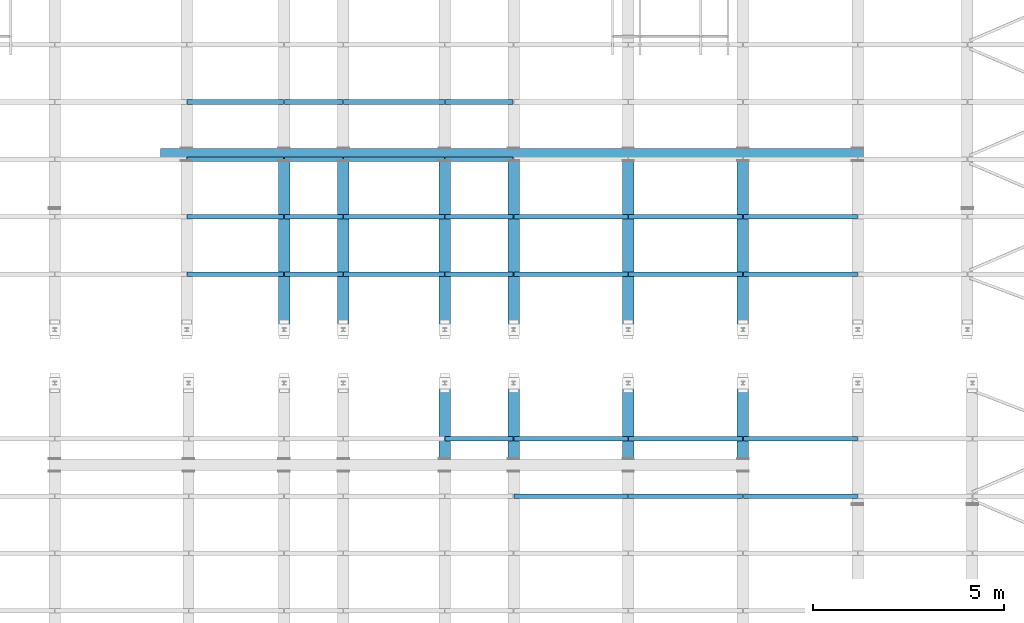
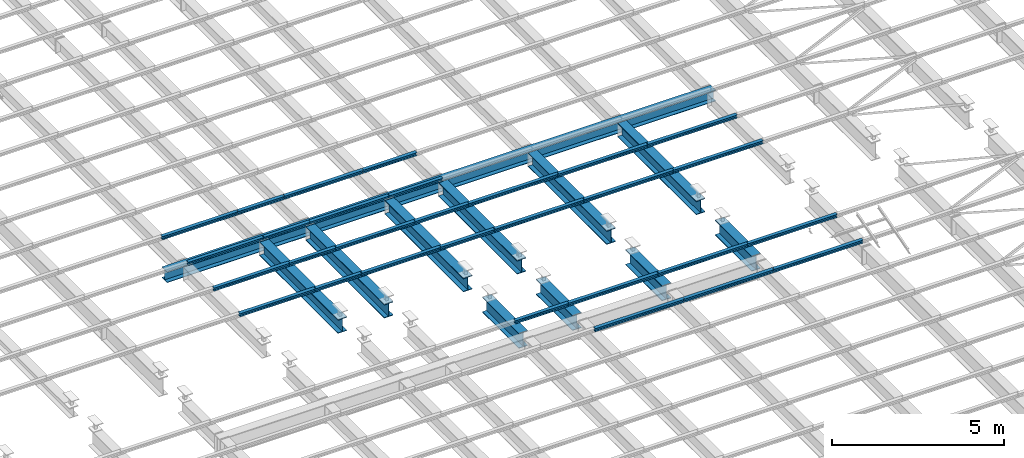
# One storey, part 42 of 139: 40 beams.
"""IFC2X3 building model written with IfcOpenShell, lengths in metres."""

from ifc_helpers import new_model, entity, si_unit, converted_unit, derived_unit, frame, origin, place, context, subcontext, project, spatial, polyline, outline, extrude, material, element, save


model = new_model("IFC2X3")

# Units and contexts
model_context = context("Model", 3, precision=1e-05, world=origin())
body_context = subcontext(model_context, "Body", "Model", "MODEL_VIEW")
ifc_project = project(units=[si_unit("LENGTHUNIT", "METRE"), si_unit("AREAUNIT", "SQUARE_METRE"), si_unit("VOLUMEUNIT", "CUBIC_METRE"), si_unit("MASSUNIT", "GRAM", prefix="KILO"), converted_unit("PLANEANGLEUNIT", "DEGREE", entity("IfcPlaneAngleMeasure", 0.0174532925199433), si_unit("PLANEANGLEUNIT", "RADIAN"), dimensions=[0, 0, 0, 0, 0, 0, 0]), derived_unit("THERMALTRANSMITTANCEUNIT", [(si_unit("POWERUNIT", "WATT"), 1), (si_unit("THERMODYNAMICTEMPERATUREUNIT", "KELVIN"), -1), (si_unit("LENGTHUNIT", "METRE"), -2)]), derived_unit("VOLUMETRICFLOWRATEUNIT", [(si_unit("LENGTHUNIT", "METRE"), 3), (converted_unit("TIMEUNIT", "hour", entity("IfcTimeMeasure", 3600.0), si_unit("TIMEUNIT", "SECOND"), dimensions=[0, 0, 1, 0, 0, 0, 0]), -1), (si_unit("LENGTHUNIT", "METRE"), -1)])], contexts=[model_context])

# Site, building, storey
site_placement = place(None, origin())
site = spatial("IfcSite", under=ifc_project, at=site_placement, Name="TWP_Speiseverteilzentrum SBW VZ II", CompositionType="ELEMENT")
building_placement = place(site_placement, origin())
building = spatial("IfcBuilding", under=site, at=building_placement, Name="Speiseverteilzentrum SBW VZ II", CompositionType="ELEMENT")
storey_placement = place(building_placement, frame((0.0, 0.0, 7.1307)))
storey = spatial("IfcBuildingStorey", under=building, at=storey_placement, Name="Wartung_FFB", CompositionType="ELEMENT", Elevation=7.1307)

# Beams
ifc_material_1 = material(Name="S235")
beam_1_placement = place(storey_placement, frame((24.8198606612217, 36.0798478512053, -0.385), z_axis=(0.0, 0.0, 1.0), x_axis=(-1.22464679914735e-16, -1.0, 0.0)))
element("IfcBeam", 1, at=beam_1_placement, inside=storey, material=ifc_material_1, Name="Stahlträger", context=body_context, shape_type="SweptSolid", body=[
    extrude(outline(polyline([(-0.15, 0.195), (-0.15, 0.176), (-0.00550000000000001, 0.176), (-0.00550000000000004, -0.176), (-0.15, -0.176), (-0.15, -0.195), (0.15, -0.195), (0.15, -0.176), (0.00549999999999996, -0.176), (0.00549999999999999, 0.176), (0.15, 0.176), (0.15, 0.195), (-0.15, 0.195)])), frame((0.0, 0.0, 0.0), z_axis=(0.0, 1.0, 0.0), x_axis=(-1.0, 0.0, 0.0)), (0.0, 0.0, 1.0), 18.3801393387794),
])
ifc_material_2 = material(Name="S235")
beam_2_placement = place(storey_placement, frame((28.0500000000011, 35.9048478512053, -0.435), z_axis=(0.0, 0.0, 1.0), x_axis=(-1.0, 0.0, 0.0)))
element("IfcBeam", 2, at=beam_2_placement, inside=storey, material=ifc_material_2, Name="Stahlträger", context=body_context, shape_type="SweptSolid", body=[
    extrude(outline(polyline([(-0.15, 0.245), (-0.15, 0.222), (-0.00599999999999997, 0.222), (-0.006, -0.222), (-0.15, -0.222), (-0.15, -0.245), (0.15, -0.245), (0.15, -0.222), (0.00600000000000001, -0.222), (0.00600000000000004, 0.222), (0.15, 0.222), (0.15, 0.245), (-0.15, 0.245)])), frame((0.0, 0.0, 0.0), z_axis=(0.0, 1.0, 0.0), x_axis=(-1.0, 0.0, 0.0)), (0.0, 0.0, 1.0), 4.55484785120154),
])
ifc_material_3 = material(Name="S235")
beam_3_placement = place(storey_placement, frame((34.0500000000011, 35.9048478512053, -0.435), z_axis=(0.0, 0.0, 1.0), x_axis=(-1.0, 0.0, 0.0)))
element("IfcBeam", 3, at=beam_3_placement, inside=storey, material=ifc_material_3, Name="Stahlträger", context=body_context, shape_type="SweptSolid", body=[
    extrude(outline(polyline([(-0.15, 0.245), (-0.15, 0.222), (-0.00599999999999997, 0.222), (-0.006, -0.222), (-0.15, -0.222), (-0.15, -0.245), (0.15, -0.245), (0.15, -0.222), (0.00600000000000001, -0.222), (0.00600000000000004, 0.222), (0.15, 0.222), (0.15, 0.245), (-0.15, 0.245)])), frame((0.0, 0.0, 0.0), z_axis=(0.0, 1.0, 0.0), x_axis=(-1.0, 0.0, 0.0)), (0.0, 0.0, 1.0), 4.55484785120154),
])
ifc_material_4 = material(Name="S235")
beam_4_placement = place(storey_placement, frame((37.0500000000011, 35.9048478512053, -0.435), z_axis=(0.0, 0.0, 1.0), x_axis=(-1.0, 0.0, 0.0)))
element("IfcBeam", 4, at=beam_4_placement, inside=storey, material=ifc_material_4, Name="Stahlträger", context=body_context, shape_type="SweptSolid", body=[
    extrude(outline(polyline([(-0.15, 0.245), (-0.15, 0.222), (-0.00599999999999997, 0.222), (-0.006, -0.222), (-0.15, -0.222), (-0.15, -0.245), (0.15, -0.245), (0.15, -0.222), (0.00600000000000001, -0.222), (0.00600000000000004, 0.222), (0.15, 0.222), (0.15, 0.245), (-0.15, 0.245)])), frame((0.0, 0.0, 0.0), z_axis=(0.0, 1.0, 0.0), x_axis=(-1.0, 0.0, 0.0)), (0.0, 0.0, 1.0), 4.55484785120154),
])
ifc_material_5 = material(Name="S235")
beam_5_placement = place(storey_placement, frame((40.0500000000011, 35.9048478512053, -0.435), z_axis=(0.0, 0.0, 1.0), x_axis=(-1.0, 0.0, 0.0)))
element("IfcBeam", 5, at=beam_5_placement, inside=storey, material=ifc_material_5, Name="Stahlträger", context=body_context, shape_type="SweptSolid", body=[
    extrude(outline(polyline([(-0.15, 0.245), (-0.15, 0.222), (-0.00599999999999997, 0.222), (-0.006, -0.222), (-0.15, -0.222), (-0.15, -0.245), (0.15, -0.245), (0.15, -0.222), (0.00600000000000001, -0.222), (0.00600000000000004, 0.222), (0.15, 0.222), (0.15, 0.245), (-0.15, 0.245)])), frame((0.0, 0.0, 0.0), z_axis=(0.0, 1.0, 0.0), x_axis=(-1.0, 0.0, 0.0)), (0.0, 0.0, 1.0), 4.55484785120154),
])
ifc_material_6 = material(Name="S235")
beam_6_placement = place(storey_placement, frame((32.2500000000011, 35.9048478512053, -0.435), z_axis=(0.0, 0.0, 1.0), x_axis=(-1.0, 0.0, 0.0)))
element("IfcBeam", 6, at=beam_6_placement, inside=storey, material=ifc_material_6, Name="Stahlträger", context=body_context, shape_type="SweptSolid", body=[
    extrude(outline(polyline([(-0.15, 0.245), (-0.15, 0.222), (-0.00599999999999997, 0.222), (-0.006, -0.222), (-0.15, -0.222), (-0.15, -0.245), (0.15, -0.245), (0.15, -0.222), (0.00600000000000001, -0.222), (0.00600000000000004, 0.222), (0.15, 0.222), (0.15, 0.245), (-0.15, 0.245)])), frame((0.0, 0.0, 0.0), z_axis=(0.0, 1.0, 0.0), x_axis=(-1.0, 0.0, 0.0)), (0.0, 0.0, 1.0), 4.55484785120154),
])
ifc_material_7 = material(Name="S235")
beam_7_placement = place(storey_placement, frame((29.6000000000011, 35.9048478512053, -0.435), z_axis=(0.0, 0.0, 1.0), x_axis=(-1.0, 0.0, 0.0)))
element("IfcBeam", 7, at=beam_7_placement, inside=storey, material=ifc_material_7, Name="Stahlträger", context=body_context, shape_type="SweptSolid", body=[
    extrude(outline(polyline([(-0.15, 0.245), (-0.15, 0.222), (-0.00599999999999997, 0.222), (-0.006, -0.222), (-0.15, -0.222), (-0.15, -0.245), (0.15, -0.245), (0.15, -0.222), (0.00600000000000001, -0.222), (0.00600000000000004, 0.222), (0.15, 0.222), (0.15, 0.245), (-0.15, 0.245)])), frame((0.0, 0.0, 0.0), z_axis=(0.0, 1.0, 0.0), x_axis=(-1.0, 0.0, 0.0)), (0.0, 0.0, 1.0), 4.55484785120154),
])
ifc_material_8 = material(Name="S235")
beam_8_placement = place(storey_placement, frame((34.0500000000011, 30.2500000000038, -0.46), z_axis=(0.0, 0.0, 1.0), x_axis=(-1.0, 0.0, 0.0)))
element("IfcBeam", 8, at=beam_8_placement, inside=storey, material=ifc_material_8, Name="Stahlträger", context=body_context, shape_type="SweptSolid", body=[
    extrude(outline(polyline([(-0.15, 0.27), (-0.15, 0.246), (-0.0062499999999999, 0.246), (-0.00624999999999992, -0.246), (-0.15, -0.246), (-0.15, -0.27), (0.15, -0.27), (0.15, -0.246), (0.00625000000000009, -0.246), (0.00625000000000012, 0.246), (0.15, 0.246), (0.15, 0.27), (-0.15, 0.27)])), frame((0.0, 0.0, 0.0), z_axis=(0.0, 1.0, 0.0), x_axis=(-1.0, 0.0, 0.0)), (0.0, 0.0, 1.0), 2.11507130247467),
])
ifc_material_9 = material(Name="S235")
beam_9_placement = place(storey_placement, frame((32.2500000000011, 30.2500000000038, -0.46), z_axis=(0.0, 0.0, 1.0), x_axis=(-1.0, 0.0, 0.0)))
element("IfcBeam", 9, at=beam_9_placement, inside=storey, material=ifc_material_9, Name="Stahlträger", context=body_context, shape_type="SweptSolid", body=[
    extrude(outline(polyline([(-0.15, 0.27), (-0.15, 0.246), (-0.0062499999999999, 0.246), (-0.00624999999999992, -0.246), (-0.15, -0.246), (-0.15, -0.27), (0.15, -0.27), (0.15, -0.246), (0.00625000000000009, -0.246), (0.00625000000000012, 0.246), (0.15, 0.246), (0.15, 0.27), (-0.15, 0.27)])), frame((0.0, 0.0, 0.0), z_axis=(0.0, 1.0, 0.0), x_axis=(-1.0, 0.0, 0.0)), (0.0, 0.0, 1.0), 2.11507130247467),
])
ifc_material_10 = material(Name="S235")
beam_10_placement = place(storey_placement, frame((37.0500000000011, 30.2500000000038, -0.46), z_axis=(0.0, 0.0, 1.0), x_axis=(-1.0, 0.0, 0.0)))
element("IfcBeam", 10, at=beam_10_placement, inside=storey, material=ifc_material_10, Name="Stahlträger", context=body_context, shape_type="SweptSolid", body=[
    extrude(outline(polyline([(-0.15, 0.27), (-0.15, 0.246), (-0.0062499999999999, 0.246), (-0.00624999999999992, -0.246), (-0.15, -0.246), (-0.15, -0.27), (0.15, -0.27), (0.15, -0.246), (0.00625000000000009, -0.246), (0.00625000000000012, 0.246), (0.15, 0.246), (0.15, 0.27), (-0.15, 0.27)])), frame((0.0, 0.0, 0.0), z_axis=(0.0, 1.0, 0.0), x_axis=(-1.0, 0.0, 0.0)), (0.0, 0.0, 1.0), 2.11507130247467),
])
ifc_material_11 = material(Name="S235")
beam_11_placement = place(storey_placement, frame((40.0500000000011, 30.2500000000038, -0.46), z_axis=(0.0, 0.0, 1.0), x_axis=(-1.0, 0.0, 0.0)))
element("IfcBeam", 11, at=beam_11_placement, inside=storey, material=ifc_material_11, Name="Stahlträger", context=body_context, shape_type="SweptSolid", body=[
    extrude(outline(polyline([(-0.15, 0.27), (-0.15, 0.246), (-0.0062499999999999, 0.246), (-0.00624999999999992, -0.246), (-0.15, -0.246), (-0.15, -0.27), (0.15, -0.27), (0.15, -0.246), (0.00625000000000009, -0.246), (0.00625000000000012, 0.246), (0.15, 0.246), (0.15, 0.27), (-0.15, 0.27)])), frame((0.0, 0.0, 0.0), z_axis=(0.0, 1.0, 0.0), x_axis=(-1.0, 0.0, 0.0)), (0.0, 0.0, 1.0), 2.11507130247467),
])
ifc_material_12 = material(Name="S235")
beam_12_placement = place(storey_placement, frame((34.0600000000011, 34.4500000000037, -0.133), z_axis=(0.0, 0.0, 1.0), x_axis=(0.0, -1.0, 0.0)))
element("IfcBeam", 12, at=beam_12_placement, inside=storey, material=ifc_material_12, Name="Nebenträger", context=body_context, shape_type="SweptSolid", body=[
    extrude(outline(polyline([(-0.06, 0.0570000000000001), (-0.06, 0.0490000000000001), (-0.00249999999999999, 0.0490000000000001), (-0.0025, -0.0489999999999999), (-0.06, -0.0489999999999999), (-0.06, -0.0569999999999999), (0.06, -0.0569999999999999), (0.06, -0.0489999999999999), (0.0025, -0.0489999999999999), (0.00250000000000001, 0.0490000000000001), (0.06, 0.0490000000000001), (0.06, 0.0570000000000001), (-0.06, 0.0570000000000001)])), frame((0.0, 0.0, 0.0), z_axis=(0.0, 1.0, 0.0), x_axis=(-1.0, 0.0, 0.0)), (0.0, 0.0, 1.0), 2.98),
])
ifc_material_13 = material(Name="S235")
beam_13_placement = place(storey_placement, frame((37.0600000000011, 34.4500000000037, -0.133), z_axis=(0.0, 0.0, 1.0), x_axis=(0.0, -1.0, 0.0)))
element("IfcBeam", 13, at=beam_13_placement, inside=storey, material=ifc_material_13, Name="Nebenträger", context=body_context, shape_type="SweptSolid", body=[
    extrude(outline(polyline([(-0.06, 0.0570000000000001), (-0.06, 0.0490000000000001), (-0.00249999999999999, 0.0490000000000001), (-0.0025, -0.0489999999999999), (-0.06, -0.0489999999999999), (-0.06, -0.0569999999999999), (0.06, -0.0569999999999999), (0.06, -0.0489999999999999), (0.0025, -0.0489999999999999), (0.00250000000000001, 0.0490000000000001), (0.06, 0.0490000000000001), (0.06, 0.0570000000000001), (-0.06, 0.0570000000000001)])), frame((0.0, 0.0, 0.0), z_axis=(0.0, 1.0, 0.0), x_axis=(-1.0, 0.0, 0.0)), (0.0, 0.0, 1.0), 2.98),
])
ifc_material_14 = material(Name="S235")
beam_14_placement = place(storey_placement, frame((40.0600000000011, 34.4500000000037, -0.133), z_axis=(0.0, 0.0, 1.0), x_axis=(0.0, -1.0, 0.0)))
element("IfcBeam", 14, at=beam_14_placement, inside=storey, material=ifc_material_14, Name="Nebenträger", context=body_context, shape_type="SweptSolid", body=[
    extrude(outline(polyline([(-0.06, 0.0570000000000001), (-0.06, 0.0490000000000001), (-0.00249999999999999, 0.0490000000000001), (-0.0025, -0.0489999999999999), (-0.06, -0.0489999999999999), (-0.06, -0.0569999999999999), (0.06, -0.0569999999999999), (0.06, -0.0489999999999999), (0.0025, -0.0489999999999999), (0.00250000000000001, 0.0490000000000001), (0.06, 0.0490000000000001), (0.06, 0.0570000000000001), (-0.06, 0.0570000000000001)])), frame((0.0, 0.0, 0.0), z_axis=(0.0, 1.0, 0.0), x_axis=(-1.0, 0.0, 0.0)), (0.0, 0.0, 1.0), 2.98),
])
ifc_material_15 = material(Name="S235")
beam_15_placement = place(storey_placement, frame((34.0600000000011, 32.9500000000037, -0.133), z_axis=(0.0, 0.0, 1.0), x_axis=(0.0, -1.0, 0.0)))
element("IfcBeam", 15, at=beam_15_placement, inside=storey, material=ifc_material_15, Name="Nebenträger", context=body_context, shape_type="SweptSolid", body=[
    extrude(outline(polyline([(-0.06, 0.0570000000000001), (-0.06, 0.0490000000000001), (-0.00249999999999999, 0.0490000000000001), (-0.0025, -0.0489999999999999), (-0.06, -0.0489999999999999), (-0.06, -0.0569999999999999), (0.06, -0.0569999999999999), (0.06, -0.0489999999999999), (0.0025, -0.0489999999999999), (0.00250000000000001, 0.0490000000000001), (0.06, 0.0490000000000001), (0.06, 0.0570000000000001), (-0.06, 0.0570000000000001)])), frame((0.0, 0.0, 0.0), z_axis=(0.0, 1.0, 0.0), x_axis=(-1.0, 0.0, 0.0)), (0.0, 0.0, 1.0), 2.98),
])
ifc_material_16 = material(Name="S235")
beam_16_placement = place(storey_placement, frame((37.0600000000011, 32.9500000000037, -0.133), z_axis=(0.0, 0.0, 1.0), x_axis=(0.0, -1.0, 0.0)))
element("IfcBeam", 16, at=beam_16_placement, inside=storey, material=ifc_material_16, Name="Nebenträger", context=body_context, shape_type="SweptSolid", body=[
    extrude(outline(polyline([(-0.06, 0.0570000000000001), (-0.06, 0.0490000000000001), (-0.00249999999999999, 0.0490000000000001), (-0.0025, -0.0489999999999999), (-0.06, -0.0489999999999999), (-0.06, -0.0569999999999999), (0.06, -0.0569999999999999), (0.06, -0.0489999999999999), (0.0025, -0.0489999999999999), (0.00250000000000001, 0.0490000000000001), (0.06, 0.0490000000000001), (0.06, 0.0570000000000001), (-0.06, 0.0570000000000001)])), frame((0.0, 0.0, 0.0), z_axis=(0.0, 1.0, 0.0), x_axis=(-1.0, 0.0, 0.0)), (0.0, 0.0, 1.0), 2.98),
])
ifc_material_17 = material(Name="S235")
beam_17_placement = place(storey_placement, frame((40.0600000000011, 32.9500000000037, -0.133), z_axis=(0.0, 0.0, 1.0), x_axis=(0.0, -1.0, 0.0)))
element("IfcBeam", 17, at=beam_17_placement, inside=storey, material=ifc_material_17, Name="Nebenträger", context=body_context, shape_type="SweptSolid", body=[
    extrude(outline(polyline([(-0.06, 0.0570000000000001), (-0.06, 0.0490000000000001), (-0.00249999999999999, 0.0490000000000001), (-0.0025, -0.0489999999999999), (-0.06, -0.0489999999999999), (-0.06, -0.0569999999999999), (0.06, -0.0569999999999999), (0.06, -0.0489999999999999), (0.0025, -0.0489999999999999), (0.00250000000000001, 0.0490000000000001), (0.06, 0.0490000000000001), (0.06, 0.0570000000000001), (-0.06, 0.0570000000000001)])), frame((0.0, 0.0, 0.0), z_axis=(0.0, 1.0, 0.0), x_axis=(-1.0, 0.0, 0.0)), (0.0, 0.0, 1.0), 2.98),
])
ifc_material_18 = material(Name="S235")
beam_18_placement = place(storey_placement, frame((34.0600000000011, 28.6450742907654, -0.133), z_axis=(0.0, 0.0, 1.0), x_axis=(0.0, -1.0, 0.0)))
element("IfcBeam", 18, at=beam_18_placement, inside=storey, material=ifc_material_18, Name="Nebenträger", context=body_context, shape_type="SweptSolid", body=[
    extrude(outline(polyline([(-0.06, 0.0570000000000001), (-0.06, 0.0490000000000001), (-0.00249999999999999, 0.0490000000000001), (-0.0025, -0.0489999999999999), (-0.06, -0.0489999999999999), (-0.06, -0.0569999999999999), (0.06, -0.0569999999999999), (0.06, -0.0489999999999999), (0.0025, -0.0489999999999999), (0.00250000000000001, 0.0490000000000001), (0.06, 0.0490000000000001), (0.06, 0.0570000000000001), (-0.06, 0.0570000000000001)])), frame((0.0, 0.0, 0.0), z_axis=(0.0, 1.0, 0.0), x_axis=(-1.0, 0.0, 0.0)), (0.0, 0.0, 1.0), 2.98),
])
ifc_material_19 = material(Name="S235")
beam_19_placement = place(storey_placement, frame((37.0600000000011, 28.6450742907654, -0.133), z_axis=(0.0, 0.0, 1.0), x_axis=(0.0, -1.0, 0.0)))
element("IfcBeam", 19, at=beam_19_placement, inside=storey, material=ifc_material_19, Name="Nebenträger", context=body_context, shape_type="SweptSolid", body=[
    extrude(outline(polyline([(-0.06, 0.0570000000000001), (-0.06, 0.0490000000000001), (-0.00249999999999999, 0.0490000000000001), (-0.0025, -0.0489999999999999), (-0.06, -0.0489999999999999), (-0.06, -0.0569999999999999), (0.06, -0.0569999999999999), (0.06, -0.0489999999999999), (0.0025, -0.0489999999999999), (0.00250000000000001, 0.0490000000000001), (0.06, 0.0490000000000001), (0.06, 0.0570000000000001), (-0.06, 0.0570000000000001)])), frame((0.0, 0.0, 0.0), z_axis=(0.0, 1.0, 0.0), x_axis=(-1.0, 0.0, 0.0)), (0.0, 0.0, 1.0), 2.98),
])
ifc_material_20 = material(Name="S235")
beam_20_placement = place(storey_placement, frame((40.0600000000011, 28.6450742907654, -0.133), z_axis=(0.0, 0.0, 1.0), x_axis=(0.0, -1.0, 0.0)))
element("IfcBeam", 20, at=beam_20_placement, inside=storey, material=ifc_material_20, Name="Nebenträger", context=body_context, shape_type="SweptSolid", body=[
    extrude(outline(polyline([(-0.06, 0.0570000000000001), (-0.06, 0.0490000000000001), (-0.00249999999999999, 0.0490000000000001), (-0.0025, -0.0489999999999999), (-0.06, -0.0489999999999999), (-0.06, -0.0569999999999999), (0.06, -0.0569999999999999), (0.06, -0.0489999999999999), (0.0025, -0.0489999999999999), (0.00250000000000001, 0.0490000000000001), (0.06, 0.0490000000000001), (0.06, 0.0570000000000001), (-0.06, 0.0570000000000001)])), frame((0.0, 0.0, 0.0), z_axis=(0.0, 1.0, 0.0), x_axis=(-1.0, 0.0, 0.0)), (0.0, 0.0, 1.0), 2.98),
])
ifc_material_21 = material(Name="S235")
beam_21_placement = place(storey_placement, frame((34.0600000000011, 27.1450742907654, -0.133), z_axis=(0.0, 0.0, 1.0), x_axis=(0.0, -1.0, 0.0)))
element("IfcBeam", 21, at=beam_21_placement, inside=storey, material=ifc_material_21, Name="Nebenträger", context=body_context, shape_type="SweptSolid", body=[
    extrude(outline(polyline([(-0.06, 0.0570000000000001), (-0.06, 0.0490000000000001), (-0.00249999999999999, 0.0490000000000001), (-0.0025, -0.0489999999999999), (-0.06, -0.0489999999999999), (-0.06, -0.0569999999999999), (0.06, -0.0569999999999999), (0.06, -0.0489999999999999), (0.0025, -0.0489999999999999), (0.00250000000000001, 0.0490000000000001), (0.06, 0.0490000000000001), (0.06, 0.0570000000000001), (-0.06, 0.0570000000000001)])), frame((0.0, 0.0, 0.0), z_axis=(0.0, 1.0, 0.0), x_axis=(-1.0, 0.0, 0.0)), (0.0, 0.0, 1.0), 2.98),
])
ifc_material_22 = material(Name="S235")
beam_22_placement = place(storey_placement, frame((37.0600000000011, 27.1450742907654, -0.133), z_axis=(0.0, 0.0, 1.0), x_axis=(0.0, -1.0, 0.0)))
element("IfcBeam", 22, at=beam_22_placement, inside=storey, material=ifc_material_22, Name="Nebenträger", context=body_context, shape_type="SweptSolid", body=[
    extrude(outline(polyline([(-0.06, 0.0570000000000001), (-0.06, 0.0490000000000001), (-0.00249999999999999, 0.0490000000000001), (-0.0025, -0.0489999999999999), (-0.06, -0.0489999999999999), (-0.06, -0.0569999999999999), (0.06, -0.0569999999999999), (0.06, -0.0489999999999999), (0.0025, -0.0489999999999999), (0.00250000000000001, 0.0490000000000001), (0.06, 0.0490000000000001), (0.06, 0.0570000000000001), (-0.06, 0.0570000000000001)])), frame((0.0, 0.0, 0.0), z_axis=(0.0, 1.0, 0.0), x_axis=(-1.0, 0.0, 0.0)), (0.0, 0.0, 1.0), 2.98),
])
ifc_material_23 = material(Name="S235")
beam_23_placement = place(storey_placement, frame((40.0600000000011, 27.1450742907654, -0.133), z_axis=(0.0, 0.0, 1.0), x_axis=(0.0, -1.0, 0.0)))
element("IfcBeam", 23, at=beam_23_placement, inside=storey, material=ifc_material_23, Name="Nebenträger", context=body_context, shape_type="SweptSolid", body=[
    extrude(outline(polyline([(-0.06, 0.0570000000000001), (-0.06, 0.0490000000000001), (-0.00249999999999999, 0.0490000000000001), (-0.0025, -0.0489999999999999), (-0.06, -0.0489999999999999), (-0.06, -0.0569999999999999), (0.06, -0.0569999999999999), (0.06, -0.0489999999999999), (0.0025, -0.0489999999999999), (0.00250000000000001, 0.0490000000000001), (0.06, 0.0490000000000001), (0.06, 0.0570000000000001), (-0.06, 0.0570000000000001)])), frame((0.0, 0.0, 0.0), z_axis=(0.0, 1.0, 0.0), x_axis=(-1.0, 0.0, 0.0)), (0.0, 0.0, 1.0), 2.98),
])
ifc_material_24 = material(Name="S235")
beam_24_placement = place(storey_placement, frame((32.2600000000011, 28.6450742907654, -0.133), z_axis=(0.0, 0.0, 1.0), x_axis=(0.0, -1.0, 0.0)))
element("IfcBeam", 24, at=beam_24_placement, inside=storey, material=ifc_material_24, Name="Nebenträger", context=body_context, shape_type="SweptSolid", body=[
    extrude(outline(polyline([(-0.06, 0.0570000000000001), (-0.06, 0.0490000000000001), (-0.00249999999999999, 0.0490000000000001), (-0.0025, -0.0489999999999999), (-0.06, -0.0489999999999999), (-0.06, -0.0569999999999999), (0.06, -0.0569999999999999), (0.06, -0.0489999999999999), (0.0025, -0.0489999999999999), (0.00250000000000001, 0.0490000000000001), (0.06, 0.0490000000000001), (0.06, 0.0570000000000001), (-0.06, 0.0570000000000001)])), frame((0.0, 0.0, 0.0), z_axis=(0.0, 1.0, 0.0), x_axis=(-1.0, 0.0, 0.0)), (0.0, 0.0, 1.0), 1.78000000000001),
])
ifc_material_25 = material(Name="S235")
beam_25_placement = place(storey_placement, frame((32.2600000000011, 37.4500000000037, -0.133), z_axis=(0.0, 0.0, 1.0), x_axis=(0.0, -1.0, 0.0)))
element("IfcBeam", 25, at=beam_25_placement, inside=storey, material=ifc_material_25, Name="Nebenträger", context=body_context, shape_type="SweptSolid", body=[
    extrude(outline(polyline([(-0.06, 0.0570000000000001), (-0.06, 0.0490000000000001), (-0.00249999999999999, 0.0490000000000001), (-0.0025, -0.0489999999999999), (-0.06, -0.0489999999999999), (-0.06, -0.0569999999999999), (0.06, -0.0569999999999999), (0.06, -0.0489999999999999), (0.0025, -0.0489999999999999), (0.00250000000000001, 0.0490000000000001), (0.06, 0.0490000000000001), (0.06, 0.0570000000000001), (-0.06, 0.0570000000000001)])), frame((0.0, 0.0, 0.0), z_axis=(0.0, 1.0, 0.0), x_axis=(-1.0, 0.0, 0.0)), (0.0, 0.0, 1.0), 1.78),
])
ifc_material_26 = material(Name="S235")
beam_26_placement = place(storey_placement, frame((28.0600000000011, 37.4500000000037, -0.133), z_axis=(0.0, 0.0, 1.0), x_axis=(0.0, -1.0, 0.0)))
element("IfcBeam", 26, at=beam_26_placement, inside=storey, material=ifc_material_26, Name="Nebenträger", context=body_context, shape_type="SweptSolid", body=[
    extrude(outline(polyline([(-0.06, 0.0570000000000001), (-0.06, 0.0490000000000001), (-0.00249999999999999, 0.0490000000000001), (-0.0025, -0.0489999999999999), (-0.06, -0.0489999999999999), (-0.06, -0.0569999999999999), (0.06, -0.0569999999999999), (0.06, -0.0489999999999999), (0.0025, -0.0489999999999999), (0.00250000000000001, 0.0490000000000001), (0.06, 0.0490000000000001), (0.06, 0.0570000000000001), (-0.06, 0.0570000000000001)])), frame((0.0, 0.0, 0.0), z_axis=(0.0, 1.0, 0.0), x_axis=(-1.0, 0.0, 0.0)), (0.0, 0.0, 1.0), 1.52999999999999),
])
ifc_material_27 = material(Name="S235")
beam_27_placement = place(storey_placement, frame((29.6100000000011, 37.4500000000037, -0.133), z_axis=(0.0, 0.0, 1.0), x_axis=(0.0, -1.0, 0.0)))
element("IfcBeam", 27, at=beam_27_placement, inside=storey, material=ifc_material_27, Name="Nebenträger", context=body_context, shape_type="SweptSolid", body=[
    extrude(outline(polyline([(-0.06, 0.0570000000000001), (-0.06, 0.0490000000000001), (-0.00249999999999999, 0.0490000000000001), (-0.0025, -0.0489999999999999), (-0.06, -0.0489999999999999), (-0.06, -0.0569999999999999), (0.06, -0.0569999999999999), (0.06, -0.0489999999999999), (0.0025, -0.0489999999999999), (0.00250000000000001, 0.0490000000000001), (0.06, 0.0490000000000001), (0.06, 0.0570000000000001), (-0.06, 0.0570000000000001)])), frame((0.0, 0.0, 0.0), z_axis=(0.0, 1.0, 0.0), x_axis=(-1.0, 0.0, 0.0)), (0.0, 0.0, 1.0), 2.63000000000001),
])
ifc_material_28 = material(Name="S235")
beam_28_placement = place(storey_placement, frame((25.5125522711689, 37.4500000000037, -0.133), z_axis=(0.0, 0.0, 1.0), x_axis=(0.0, -1.0, 0.0)))
element("IfcBeam", 28, at=beam_28_placement, inside=storey, material=ifc_material_28, Name="Nebenträger", context=body_context, shape_type="SweptSolid", body=[
    extrude(outline(polyline([(-0.06, 0.0570000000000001), (-0.06, 0.0490000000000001), (-0.00249999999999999, 0.0490000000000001), (-0.0025, -0.0489999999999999), (-0.06, -0.0489999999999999), (-0.06, -0.0569999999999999), (0.06, -0.0569999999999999), (0.06, -0.0489999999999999), (0.0025, -0.0489999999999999), (0.00250000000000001, 0.0490000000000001), (0.06, 0.0490000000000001), (0.06, 0.0570000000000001), (-0.06, 0.0570000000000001)])), frame((0.0, 0.0, 0.0), z_axis=(0.0, 1.0, 0.0), x_axis=(-1.0, 0.0, 0.0)), (0.0, 0.0, 1.0), 2.52744772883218),
])
ifc_material_29 = material(Name="S235")
beam_29_placement = place(storey_placement, frame((25.5125522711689, 35.9500000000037, -0.133), z_axis=(0.0, 0.0, 1.0), x_axis=(0.0, -1.0, 0.0)))
element("IfcBeam", 29, at=beam_29_placement, inside=storey, material=ifc_material_29, Name="Nebenträger", context=body_context, shape_type="SweptSolid", body=[
    extrude(outline(polyline([(-0.06, 0.0570000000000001), (-0.06, 0.0490000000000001), (-0.00249999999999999, 0.0490000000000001), (-0.0025, -0.0489999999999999), (-0.06, -0.0489999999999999), (-0.06, -0.0569999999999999), (0.06, -0.0569999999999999), (0.06, -0.0489999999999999), (0.0025, -0.0489999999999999), (0.00250000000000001, 0.0490000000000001), (0.06, 0.0490000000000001), (0.06, 0.0570000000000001), (-0.06, 0.0570000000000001)])), frame((0.0, 0.0, 0.0), z_axis=(0.0, 1.0, 0.0), x_axis=(-1.0, 0.0, 0.0)), (0.0, 0.0, 1.0), 2.52744772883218),
])
ifc_material_30 = material(Name="S235")
beam_30_placement = place(storey_placement, frame((25.5125522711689, 34.4500000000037, -0.133), z_axis=(0.0, 0.0, 1.0), x_axis=(0.0, -1.0, 0.0)))
element("IfcBeam", 30, at=beam_30_placement, inside=storey, material=ifc_material_30, Name="Nebenträger", context=body_context, shape_type="SweptSolid", body=[
    extrude(outline(polyline([(-0.06, 0.0570000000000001), (-0.06, 0.0490000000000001), (-0.00249999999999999, 0.0490000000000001), (-0.0025, -0.0489999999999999), (-0.06, -0.0489999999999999), (-0.06, -0.0569999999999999), (0.06, -0.0569999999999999), (0.06, -0.0489999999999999), (0.0025, -0.0489999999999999), (0.00250000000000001, 0.0490000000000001), (0.06, 0.0490000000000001), (0.06, 0.0570000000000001), (-0.06, 0.0570000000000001)])), frame((0.0, 0.0, 0.0), z_axis=(0.0, 1.0, 0.0), x_axis=(-1.0, 0.0, 0.0)), (0.0, 0.0, 1.0), 2.52744772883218),
])
ifc_material_31 = material(Name="S235")
beam_31_placement = place(storey_placement, frame((25.5125522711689, 32.9500000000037, -0.133), z_axis=(0.0, 0.0, 1.0), x_axis=(0.0, -1.0, 0.0)))
element("IfcBeam", 31, at=beam_31_placement, inside=storey, material=ifc_material_31, Name="Nebenträger", context=body_context, shape_type="SweptSolid", body=[
    extrude(outline(polyline([(-0.06, 0.0570000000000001), (-0.06, 0.0490000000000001), (-0.00249999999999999, 0.0490000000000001), (-0.0025, -0.0489999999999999), (-0.06, -0.0489999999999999), (-0.06, -0.0569999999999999), (0.06, -0.0569999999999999), (0.06, -0.0489999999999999), (0.0025, -0.0489999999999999), (0.00250000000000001, 0.0490000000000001), (0.06, 0.0490000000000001), (0.06, 0.0570000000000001), (-0.06, 0.0570000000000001)])), frame((0.0, 0.0, 0.0), z_axis=(0.0, 1.0, 0.0), x_axis=(-1.0, 0.0, 0.0)), (0.0, 0.0, 1.0), 2.52744772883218),
])
ifc_material_32 = material(Name="S235")
beam_32_placement = place(storey_placement, frame((32.2600000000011, 35.9500000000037, -0.133), z_axis=(0.0, 0.0, 1.0), x_axis=(0.0, -1.0, 0.0)))
element("IfcBeam", 32, at=beam_32_placement, inside=storey, material=ifc_material_32, Name="Nebenträger", context=body_context, shape_type="SweptSolid", body=[
    extrude(outline(polyline([(-0.06, 0.0570000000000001), (-0.06, 0.0490000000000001), (-0.00249999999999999, 0.0490000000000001), (-0.0025, -0.0489999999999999), (-0.06, -0.0489999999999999), (-0.06, -0.0569999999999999), (0.06, -0.0569999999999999), (0.06, -0.0489999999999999), (0.0025, -0.0489999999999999), (0.00250000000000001, 0.0490000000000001), (0.06, 0.0490000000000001), (0.06, 0.0570000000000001), (-0.06, 0.0570000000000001)])), frame((0.0, 0.0, 0.0), z_axis=(0.0, 1.0, 0.0), x_axis=(-1.0, 0.0, 0.0)), (0.0, 0.0, 1.0), 1.78000000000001),
])
ifc_material_33 = material(Name="S235")
beam_33_placement = place(storey_placement, frame((32.2600000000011, 34.4500000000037, -0.133), z_axis=(0.0, 0.0, 1.0), x_axis=(0.0, -1.0, 0.0)))
element("IfcBeam", 33, at=beam_33_placement, inside=storey, material=ifc_material_33, Name="Nebenträger", context=body_context, shape_type="SweptSolid", body=[
    extrude(outline(polyline([(-0.06, 0.0570000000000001), (-0.06, 0.0490000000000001), (-0.00249999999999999, 0.0490000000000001), (-0.0025, -0.0489999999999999), (-0.06, -0.0489999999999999), (-0.06, -0.0569999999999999), (0.06, -0.0569999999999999), (0.06, -0.0489999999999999), (0.0025, -0.0489999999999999), (0.00250000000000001, 0.0490000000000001), (0.06, 0.0490000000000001), (0.06, 0.0570000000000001), (-0.06, 0.0570000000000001)])), frame((0.0, 0.0, 0.0), z_axis=(0.0, 1.0, 0.0), x_axis=(-1.0, 0.0, 0.0)), (0.0, 0.0, 1.0), 1.78000000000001),
])
ifc_material_34 = material(Name="S235")
beam_34_placement = place(storey_placement, frame((32.2600000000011, 32.9500000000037, -0.133), z_axis=(0.0, 0.0, 1.0), x_axis=(0.0, -1.0, 0.0)))
element("IfcBeam", 34, at=beam_34_placement, inside=storey, material=ifc_material_34, Name="Nebenträger", context=body_context, shape_type="SweptSolid", body=[
    extrude(outline(polyline([(-0.06, 0.0570000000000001), (-0.06, 0.0490000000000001), (-0.00249999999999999, 0.0490000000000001), (-0.0025, -0.0489999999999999), (-0.06, -0.0489999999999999), (-0.06, -0.0569999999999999), (0.06, -0.0569999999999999), (0.06, -0.0489999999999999), (0.0025, -0.0489999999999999), (0.00250000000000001, 0.0490000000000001), (0.06, 0.0490000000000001), (0.06, 0.0570000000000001), (-0.06, 0.0570000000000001)])), frame((0.0, 0.0, 0.0), z_axis=(0.0, 1.0, 0.0), x_axis=(-1.0, 0.0, 0.0)), (0.0, 0.0, 1.0), 1.78000000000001),
])
ifc_material_35 = material(Name="S235")
beam_35_placement = place(storey_placement, frame((29.6100000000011, 35.9500000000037, -0.133), z_axis=(0.0, 0.0, 1.0), x_axis=(0.0, -1.0, 0.0)))
element("IfcBeam", 35, at=beam_35_placement, inside=storey, material=ifc_material_35, Name="Nebenträger", context=body_context, shape_type="SweptSolid", body=[
    extrude(outline(polyline([(-0.06, 0.0570000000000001), (-0.06, 0.0490000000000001), (-0.00249999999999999, 0.0490000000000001), (-0.0025, -0.0489999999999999), (-0.06, -0.0489999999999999), (-0.06, -0.0569999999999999), (0.06, -0.0569999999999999), (0.06, -0.0489999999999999), (0.0025, -0.0489999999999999), (0.00250000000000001, 0.0490000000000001), (0.06, 0.0490000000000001), (0.06, 0.0570000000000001), (-0.06, 0.0570000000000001)])), frame((0.0, 0.0, 0.0), z_axis=(0.0, 1.0, 0.0), x_axis=(-1.0, 0.0, 0.0)), (0.0, 0.0, 1.0), 2.63000000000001),
])
ifc_material_36 = material(Name="S235")
beam_36_placement = place(storey_placement, frame((29.6100000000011, 34.4500000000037, -0.133), z_axis=(0.0, 0.0, 1.0), x_axis=(0.0, -1.0, 0.0)))
element("IfcBeam", 36, at=beam_36_placement, inside=storey, material=ifc_material_36, Name="Nebenträger", context=body_context, shape_type="SweptSolid", body=[
    extrude(outline(polyline([(-0.06, 0.0570000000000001), (-0.06, 0.0490000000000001), (-0.00249999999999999, 0.0490000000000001), (-0.0025, -0.0489999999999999), (-0.06, -0.0489999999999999), (-0.06, -0.0569999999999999), (0.06, -0.0569999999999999), (0.06, -0.0489999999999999), (0.0025, -0.0489999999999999), (0.00250000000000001, 0.0490000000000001), (0.06, 0.0490000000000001), (0.06, 0.0570000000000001), (-0.06, 0.0570000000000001)])), frame((0.0, 0.0, 0.0), z_axis=(0.0, 1.0, 0.0), x_axis=(-1.0, 0.0, 0.0)), (0.0, 0.0, 1.0), 2.63000000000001),
])
ifc_material_37 = material(Name="S235")
beam_37_placement = place(storey_placement, frame((29.6100000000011, 32.9500000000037, -0.133), z_axis=(0.0, 0.0, 1.0), x_axis=(0.0, -1.0, 0.0)))
element("IfcBeam", 37, at=beam_37_placement, inside=storey, material=ifc_material_37, Name="Nebenträger", context=body_context, shape_type="SweptSolid", body=[
    extrude(outline(polyline([(-0.06, 0.0570000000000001), (-0.06, 0.0490000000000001), (-0.00249999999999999, 0.0490000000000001), (-0.0025, -0.0489999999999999), (-0.06, -0.0489999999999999), (-0.06, -0.0569999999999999), (0.06, -0.0569999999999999), (0.06, -0.0489999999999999), (0.0025, -0.0489999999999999), (0.00250000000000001, 0.0490000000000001), (0.06, 0.0490000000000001), (0.06, 0.0570000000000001), (-0.06, 0.0570000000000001)])), frame((0.0, 0.0, 0.0), z_axis=(0.0, 1.0, 0.0), x_axis=(-1.0, 0.0, 0.0)), (0.0, 0.0, 1.0), 2.63000000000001),
])
ifc_material_38 = material(Name="S235")
beam_38_placement = place(storey_placement, frame((28.0600000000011, 35.9500000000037, -0.133), z_axis=(0.0, 0.0, 1.0), x_axis=(0.0, -1.0, 0.0)))
element("IfcBeam", 38, at=beam_38_placement, inside=storey, material=ifc_material_38, Name="Nebenträger", context=body_context, shape_type="SweptSolid", body=[
    extrude(outline(polyline([(-0.06, 0.0570000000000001), (-0.06, 0.0490000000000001), (-0.00249999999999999, 0.0490000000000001), (-0.0025, -0.0489999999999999), (-0.06, -0.0489999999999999), (-0.06, -0.0569999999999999), (0.06, -0.0569999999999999), (0.06, -0.0489999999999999), (0.0025, -0.0489999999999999), (0.00250000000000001, 0.0490000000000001), (0.06, 0.0490000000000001), (0.06, 0.0570000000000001), (-0.06, 0.0570000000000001)])), frame((0.0, 0.0, 0.0), z_axis=(0.0, 1.0, 0.0), x_axis=(-1.0, 0.0, 0.0)), (0.0, 0.0, 1.0), 1.52999999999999),
])
ifc_material_39 = material(Name="S235")
beam_39_placement = place(storey_placement, frame((28.0600000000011, 34.4500000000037, -0.133), z_axis=(0.0, 0.0, 1.0), x_axis=(0.0, -1.0, 0.0)))
element("IfcBeam", 39, at=beam_39_placement, inside=storey, material=ifc_material_39, Name="Nebenträger", context=body_context, shape_type="SweptSolid", body=[
    extrude(outline(polyline([(-0.06, 0.0570000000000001), (-0.06, 0.0490000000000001), (-0.00249999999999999, 0.0490000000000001), (-0.0025, -0.0489999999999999), (-0.06, -0.0489999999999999), (-0.06, -0.0569999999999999), (0.06, -0.0569999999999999), (0.06, -0.0489999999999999), (0.0025, -0.0489999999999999), (0.00250000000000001, 0.0490000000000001), (0.06, 0.0490000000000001), (0.06, 0.0570000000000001), (-0.06, 0.0570000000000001)])), frame((0.0, 0.0, 0.0), z_axis=(0.0, 1.0, 0.0), x_axis=(-1.0, 0.0, 0.0)), (0.0, 0.0, 1.0), 1.52999999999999),
])
ifc_material_40 = material(Name="S235")
beam_40_placement = place(storey_placement, frame((28.0600000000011, 32.9500000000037, -0.133), z_axis=(0.0, 0.0, 1.0), x_axis=(0.0, -1.0, 0.0)))
element("IfcBeam", 40, at=beam_40_placement, inside=storey, material=ifc_material_40, Name="Nebenträger", context=body_context, shape_type="SweptSolid", body=[
    extrude(outline(polyline([(-0.06, 0.0570000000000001), (-0.06, 0.0490000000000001), (-0.00249999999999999, 0.0490000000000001), (-0.0025, -0.0489999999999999), (-0.06, -0.0489999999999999), (-0.06, -0.0569999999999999), (0.06, -0.0569999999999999), (0.06, -0.0489999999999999), (0.0025, -0.0489999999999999), (0.00250000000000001, 0.0490000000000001), (0.06, 0.0490000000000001), (0.06, 0.0570000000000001), (-0.06, 0.0570000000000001)])), frame((0.0, 0.0, 0.0), z_axis=(0.0, 1.0, 0.0), x_axis=(-1.0, 0.0, 0.0)), (0.0, 0.0, 1.0), 1.52999999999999),
])

save(model, "model.ifc")
